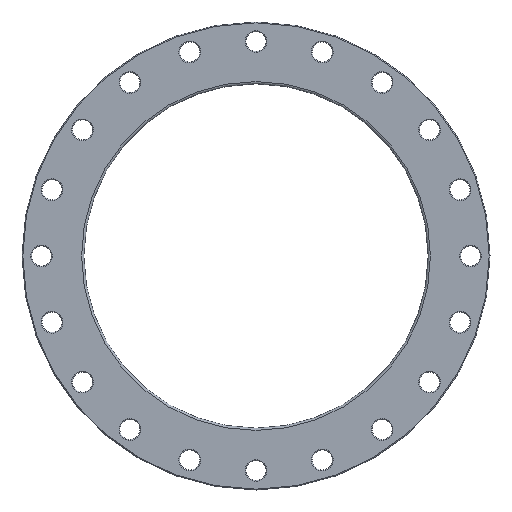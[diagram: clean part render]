
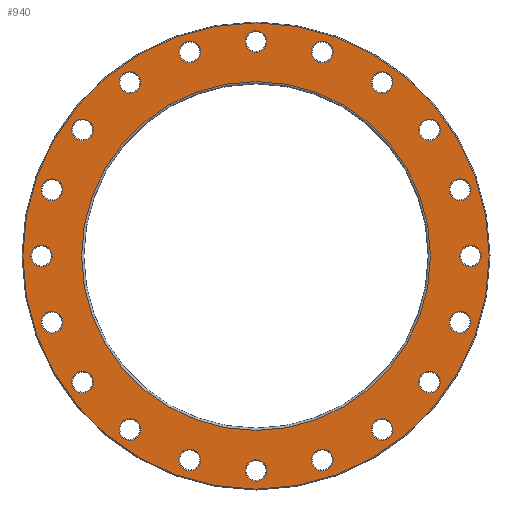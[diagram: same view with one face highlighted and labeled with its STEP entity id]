
A CAD part, front view. The second image highlights one B-rep face of the part: STEP entity #940.
In plain terms, the highlighted planar face has unit normal (0, -1, 0).
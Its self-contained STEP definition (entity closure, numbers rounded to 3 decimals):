
#23=PLANE('',#1104);
#206=ORIENTED_EDGE('',*,*,#325,.T.);
#207=ORIENTED_EDGE('',*,*,#326,.T.);
#208=ORIENTED_EDGE('',*,*,#244,.T.);
#209=ORIENTED_EDGE('',*,*,#248,.T.);
#210=ORIENTED_EDGE('',*,*,#252,.T.);
#211=ORIENTED_EDGE('',*,*,#256,.T.);
#212=ORIENTED_EDGE('',*,*,#260,.T.);
#213=ORIENTED_EDGE('',*,*,#264,.T.);
#214=ORIENTED_EDGE('',*,*,#268,.T.);
#215=ORIENTED_EDGE('',*,*,#272,.T.);
#216=ORIENTED_EDGE('',*,*,#276,.T.);
#217=ORIENTED_EDGE('',*,*,#280,.T.);
#218=ORIENTED_EDGE('',*,*,#284,.T.);
#219=ORIENTED_EDGE('',*,*,#288,.T.);
#220=ORIENTED_EDGE('',*,*,#292,.T.);
#221=ORIENTED_EDGE('',*,*,#296,.T.);
#222=ORIENTED_EDGE('',*,*,#300,.T.);
#223=ORIENTED_EDGE('',*,*,#304,.T.);
#224=ORIENTED_EDGE('',*,*,#308,.T.);
#225=ORIENTED_EDGE('',*,*,#312,.T.);
#226=ORIENTED_EDGE('',*,*,#316,.T.);
#227=ORIENTED_EDGE('',*,*,#327,.T.);
#244=EDGE_CURVE('',#332,#332,#420,.T.);
#248=EDGE_CURVE('',#336,#336,#424,.T.);
#252=EDGE_CURVE('',#340,#340,#428,.T.);
#256=EDGE_CURVE('',#344,#344,#432,.T.);
#260=EDGE_CURVE('',#348,#348,#436,.T.);
#264=EDGE_CURVE('',#352,#352,#440,.T.);
#268=EDGE_CURVE('',#356,#356,#444,.T.);
#272=EDGE_CURVE('',#360,#360,#448,.T.);
#276=EDGE_CURVE('',#364,#364,#452,.T.);
#280=EDGE_CURVE('',#368,#368,#456,.T.);
#284=EDGE_CURVE('',#372,#372,#460,.T.);
#288=EDGE_CURVE('',#376,#376,#464,.T.);
#292=EDGE_CURVE('',#380,#380,#468,.T.);
#296=EDGE_CURVE('',#384,#384,#472,.T.);
#300=EDGE_CURVE('',#388,#388,#476,.T.);
#304=EDGE_CURVE('',#392,#392,#480,.T.);
#308=EDGE_CURVE('',#396,#396,#484,.T.);
#312=EDGE_CURVE('',#400,#400,#488,.T.);
#316=EDGE_CURVE('',#404,#404,#492,.T.);
#325=EDGE_CURVE('',#413,#413,#501,.F.);
#326=EDGE_CURVE('',#414,#414,#502,.T.);
#327=EDGE_CURVE('',#415,#415,#503,.T.);
#332=VERTEX_POINT('',#1439);
#336=VERTEX_POINT('',#1450);
#340=VERTEX_POINT('',#1461);
#344=VERTEX_POINT('',#1472);
#348=VERTEX_POINT('',#1483);
#352=VERTEX_POINT('',#1494);
#356=VERTEX_POINT('',#1505);
#360=VERTEX_POINT('',#1516);
#364=VERTEX_POINT('',#1527);
#368=VERTEX_POINT('',#1538);
#372=VERTEX_POINT('',#1549);
#376=VERTEX_POINT('',#1560);
#380=VERTEX_POINT('',#1571);
#384=VERTEX_POINT('',#1582);
#388=VERTEX_POINT('',#1593);
#392=VERTEX_POINT('',#1604);
#396=VERTEX_POINT('',#1615);
#400=VERTEX_POINT('',#1626);
#404=VERTEX_POINT('',#1637);
#413=VERTEX_POINT('',#1660);
#414=VERTEX_POINT('',#1662);
#415=VERTEX_POINT('',#1664);
#420=CIRCLE('',#965,19.5);
#424=CIRCLE('',#972,19.5);
#428=CIRCLE('',#979,19.5);
#432=CIRCLE('',#986,19.5);
#436=CIRCLE('',#993,19.5);
#440=CIRCLE('',#1000,19.5);
#444=CIRCLE('',#1007,19.5);
#448=CIRCLE('',#1014,19.5);
#452=CIRCLE('',#1021,19.5);
#456=CIRCLE('',#1028,19.5);
#460=CIRCLE('',#1035,19.5);
#464=CIRCLE('',#1042,19.5);
#468=CIRCLE('',#1049,19.5);
#472=CIRCLE('',#1056,19.5);
#476=CIRCLE('',#1063,19.5);
#480=CIRCLE('',#1070,19.5);
#484=CIRCLE('',#1077,19.5);
#488=CIRCLE('',#1084,19.5);
#492=CIRCLE('',#1091,19.5);
#501=CIRCLE('',#1105,418.5);
#502=CIRCLE('',#1106,313.);
#503=CIRCLE('',#1107,19.5);
#646=EDGE_LOOP('',(#206));
#647=EDGE_LOOP('',(#207));
#648=EDGE_LOOP('',(#208));
#649=EDGE_LOOP('',(#209));
#650=EDGE_LOOP('',(#210));
#651=EDGE_LOOP('',(#211));
#652=EDGE_LOOP('',(#212));
#653=EDGE_LOOP('',(#213));
#654=EDGE_LOOP('',(#214));
#655=EDGE_LOOP('',(#215));
#656=EDGE_LOOP('',(#216));
#657=EDGE_LOOP('',(#217));
#658=EDGE_LOOP('',(#218));
#659=EDGE_LOOP('',(#219));
#660=EDGE_LOOP('',(#220));
#661=EDGE_LOOP('',(#221));
#662=EDGE_LOOP('',(#222));
#663=EDGE_LOOP('',(#223));
#664=EDGE_LOOP('',(#224));
#665=EDGE_LOOP('',(#225));
#666=EDGE_LOOP('',(#226));
#667=EDGE_LOOP('',(#227));
#822=FACE_BOUND('',#646,.T.);
#823=FACE_BOUND('',#647,.T.);
#824=FACE_BOUND('',#648,.T.);
#825=FACE_BOUND('',#649,.T.);
#826=FACE_BOUND('',#650,.T.);
#827=FACE_BOUND('',#651,.T.);
#828=FACE_BOUND('',#652,.T.);
#829=FACE_BOUND('',#653,.T.);
#830=FACE_BOUND('',#654,.T.);
#831=FACE_BOUND('',#655,.T.);
#832=FACE_BOUND('',#656,.T.);
#833=FACE_BOUND('',#657,.T.);
#834=FACE_BOUND('',#658,.T.);
#835=FACE_BOUND('',#659,.T.);
#836=FACE_BOUND('',#660,.T.);
#837=FACE_BOUND('',#661,.T.);
#838=FACE_BOUND('',#662,.T.);
#839=FACE_BOUND('',#663,.T.);
#840=FACE_BOUND('',#664,.T.);
#841=FACE_BOUND('',#665,.T.);
#842=FACE_BOUND('',#666,.T.);
#843=FACE_BOUND('',#667,.T.);
#940=ADVANCED_FACE('',(#822,#823,#824,#825,#826,#827,#828,#829,#830,#831,
#832,#833,#834,#835,#836,#837,#838,#839,#840,#841,#842,#843),#23,.F.);
#965=AXIS2_PLACEMENT_3D('',#1438,#1127,#1128);
#972=AXIS2_PLACEMENT_3D('',#1449,#1141,#1142);
#979=AXIS2_PLACEMENT_3D('',#1460,#1155,#1156);
#986=AXIS2_PLACEMENT_3D('',#1471,#1169,#1170);
#993=AXIS2_PLACEMENT_3D('',#1482,#1183,#1184);
#1000=AXIS2_PLACEMENT_3D('',#1493,#1197,#1198);
#1007=AXIS2_PLACEMENT_3D('',#1504,#1211,#1212);
#1014=AXIS2_PLACEMENT_3D('',#1515,#1225,#1226);
#1021=AXIS2_PLACEMENT_3D('',#1526,#1239,#1240);
#1028=AXIS2_PLACEMENT_3D('',#1537,#1253,#1254);
#1035=AXIS2_PLACEMENT_3D('',#1548,#1267,#1268);
#1042=AXIS2_PLACEMENT_3D('',#1559,#1281,#1282);
#1049=AXIS2_PLACEMENT_3D('',#1570,#1295,#1296);
#1056=AXIS2_PLACEMENT_3D('',#1581,#1309,#1310);
#1063=AXIS2_PLACEMENT_3D('',#1592,#1323,#1324);
#1070=AXIS2_PLACEMENT_3D('',#1603,#1337,#1338);
#1077=AXIS2_PLACEMENT_3D('',#1614,#1351,#1352);
#1084=AXIS2_PLACEMENT_3D('',#1625,#1365,#1366);
#1091=AXIS2_PLACEMENT_3D('',#1636,#1379,#1380);
#1104=AXIS2_PLACEMENT_3D('',#1658,#1405,#1406);
#1105=AXIS2_PLACEMENT_3D('',#1659,#1407,#1408);
#1106=AXIS2_PLACEMENT_3D('',#1661,#1409,#1410);
#1107=AXIS2_PLACEMENT_3D('',#1663,#1411,#1412);
#1127=DIRECTION('',(0.,1.,0.));
#1128=DIRECTION('',(0.951,0.,0.309));
#1141=DIRECTION('',(0.,1.,0.));
#1142=DIRECTION('',(0.809,0.,0.588));
#1155=DIRECTION('',(0.,1.,0.));
#1156=DIRECTION('',(0.588,0.,0.809));
#1169=DIRECTION('',(0.,1.,0.));
#1170=DIRECTION('',(0.309,0.,0.951));
#1183=DIRECTION('',(0.,1.,0.));
#1184=DIRECTION('',(0.,0.,1.));
#1197=DIRECTION('',(0.,1.,0.));
#1198=DIRECTION('',(-0.309,0.,0.951));
#1211=DIRECTION('',(0.,1.,0.));
#1212=DIRECTION('',(-0.588,0.,0.809));
#1225=DIRECTION('',(0.,1.,0.));
#1226=DIRECTION('',(-0.809,0.,0.588));
#1239=DIRECTION('',(0.,1.,0.));
#1240=DIRECTION('',(-0.951,0.,0.309));
#1253=DIRECTION('',(0.,1.,0.));
#1254=DIRECTION('',(-1.,0.,0.));
#1267=DIRECTION('',(0.,1.,0.));
#1268=DIRECTION('',(-0.951,0.,-0.309));
#1281=DIRECTION('',(0.,1.,0.));
#1282=DIRECTION('',(-0.809,0.,-0.588));
#1295=DIRECTION('',(0.,1.,0.));
#1296=DIRECTION('',(-0.588,0.,-0.809));
#1309=DIRECTION('',(0.,1.,0.));
#1310=DIRECTION('',(-0.309,0.,-0.951));
#1323=DIRECTION('',(0.,1.,0.));
#1324=DIRECTION('',(0.,0.,-1.));
#1337=DIRECTION('',(0.,1.,0.));
#1338=DIRECTION('',(0.309,0.,-0.951));
#1351=DIRECTION('',(0.,1.,0.));
#1352=DIRECTION('',(0.588,0.,-0.809));
#1365=DIRECTION('',(0.,1.,0.));
#1366=DIRECTION('',(0.809,0.,-0.588));
#1379=DIRECTION('',(0.,1.,0.));
#1380=DIRECTION('',(0.951,0.,-0.309));
#1405=DIRECTION('',(0.,1.,0.));
#1406=DIRECTION('',(0.,0.,1.));
#1407=DIRECTION('',(0.,1.,0.));
#1408=DIRECTION('',(0.,0.,1.));
#1409=DIRECTION('',(0.,1.,0.));
#1410=DIRECTION('',(0.,0.,1.));
#1411=DIRECTION('',(0.,1.,0.));
#1412=DIRECTION('',(1.,0.,0.));
#1438=CARTESIAN_POINT('',(-118.972,0.,366.157));
#1439=CARTESIAN_POINT('',(-100.426,0.,372.183));
#1449=CARTESIAN_POINT('',(-226.297,0.,311.472));
#1450=CARTESIAN_POINT('',(-210.521,0.,322.933));
#1460=CARTESIAN_POINT('',(-311.472,0.,226.297));
#1461=CARTESIAN_POINT('',(-300.01,0.,242.073));
#1471=CARTESIAN_POINT('',(-366.157,0.,118.972));
#1472=CARTESIAN_POINT('',(-360.131,0.,137.517));
#1482=CARTESIAN_POINT('',(-385.,0.,0.));
#1483=CARTESIAN_POINT('',(-385.,0.,19.5));
#1493=CARTESIAN_POINT('',(-366.157,0.,-118.972));
#1494=CARTESIAN_POINT('',(-372.183,0.,-100.426));
#1504=CARTESIAN_POINT('',(-311.472,0.,-226.297));
#1505=CARTESIAN_POINT('',(-322.933,0.,-210.521));
#1515=CARTESIAN_POINT('',(-226.297,0.,-311.472));
#1516=CARTESIAN_POINT('',(-242.073,0.,-300.01));
#1526=CARTESIAN_POINT('',(-118.972,0.,-366.157));
#1527=CARTESIAN_POINT('',(-137.517,0.,-360.131));
#1537=CARTESIAN_POINT('',(0.,0.,-385.));
#1538=CARTESIAN_POINT('',(-19.5,0.,-385.));
#1548=CARTESIAN_POINT('',(118.972,0.,-366.157));
#1549=CARTESIAN_POINT('',(100.426,0.,-372.183));
#1559=CARTESIAN_POINT('',(226.297,0.,-311.472));
#1560=CARTESIAN_POINT('',(210.521,0.,-322.933));
#1570=CARTESIAN_POINT('',(311.472,0.,-226.297));
#1571=CARTESIAN_POINT('',(300.01,0.,-242.073));
#1581=CARTESIAN_POINT('',(366.157,0.,-118.972));
#1582=CARTESIAN_POINT('',(360.131,0.,-137.517));
#1592=CARTESIAN_POINT('',(385.,0.,0.));
#1593=CARTESIAN_POINT('',(385.,0.,-19.5));
#1603=CARTESIAN_POINT('',(366.157,0.,118.972));
#1604=CARTESIAN_POINT('',(372.183,0.,100.426));
#1614=CARTESIAN_POINT('',(311.472,0.,226.297));
#1615=CARTESIAN_POINT('',(322.933,0.,210.521));
#1625=CARTESIAN_POINT('',(226.297,0.,311.472));
#1626=CARTESIAN_POINT('',(242.073,0.,300.01));
#1636=CARTESIAN_POINT('',(118.972,0.,366.157));
#1637=CARTESIAN_POINT('',(137.517,0.,360.131));
#1658=CARTESIAN_POINT('',(0.,0.,0.));
#1659=CARTESIAN_POINT('',(0.,0.,0.));
#1660=CARTESIAN_POINT('',(0.,0.,418.5));
#1661=CARTESIAN_POINT('',(0.,0.,0.));
#1662=CARTESIAN_POINT('',(0.,0.,313.));
#1663=CARTESIAN_POINT('',(0.,0.,385.));
#1664=CARTESIAN_POINT('',(19.5,0.,385.));
